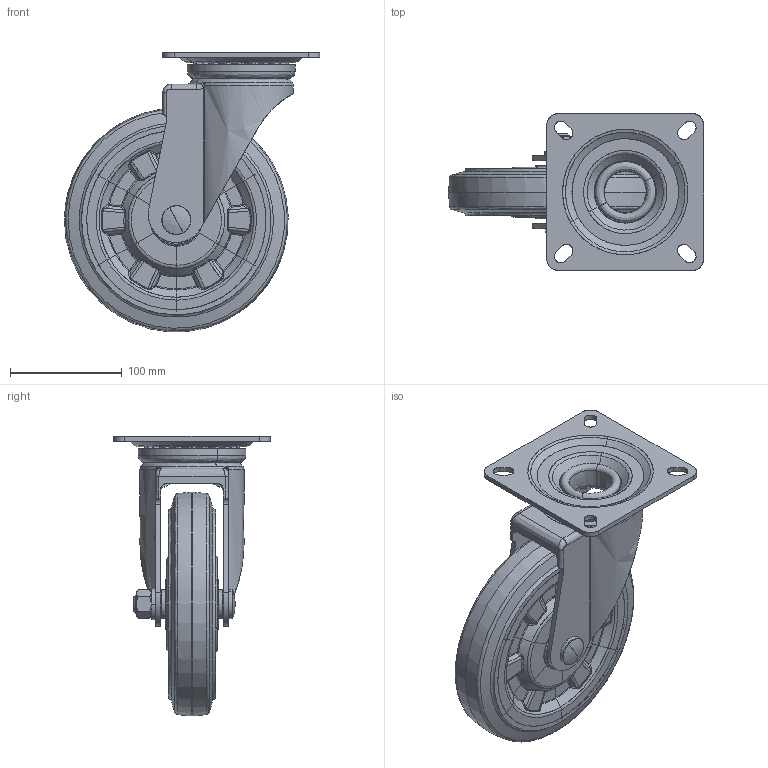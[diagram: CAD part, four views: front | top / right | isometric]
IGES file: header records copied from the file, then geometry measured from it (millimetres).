
Start section: JAMA-IS VERSION  1.0
Global section: file name: E:\tools-models\その他メーカー2\INOAC車輪\8月\GR-200WJ-ALL.igs; native system: CAM-TOOL; preprocessor: C3out Version 11.1.1.50212 (2015/02/12); author: NONE; organization: NONE; date: 220825.075920; units: millimetre
Bounding box: 228 x 140 x 249.79 mm (x, y, z)
Surface area: 412422.6 mm2 (no closed solid volume)
Topology: 0 solids, 0 shells, 1531 faces, 25155 edges, 25675 vertices
Faces by surface type: bspline 1531
